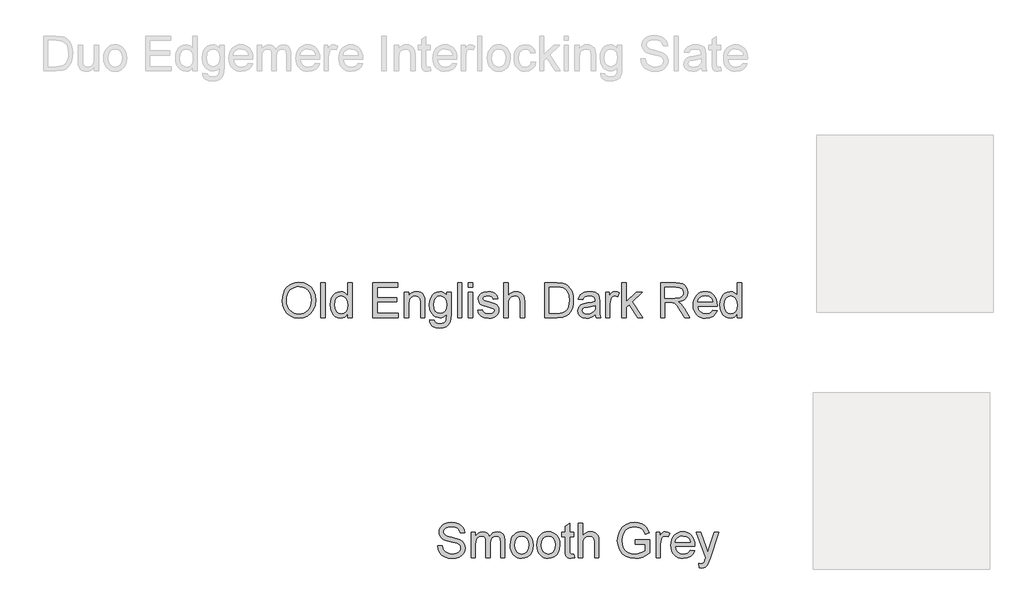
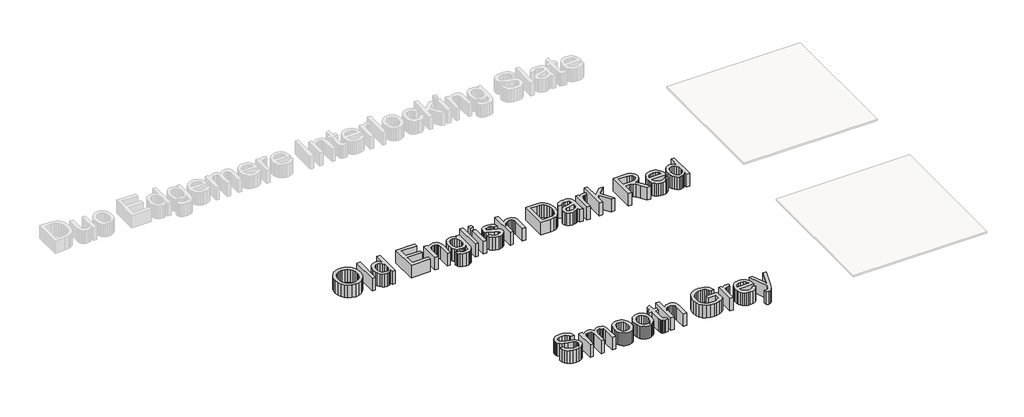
# One storey, part 4 of 8: 2 proxies.
"""IFC4 building model written with IfcOpenShell, lengths in millimetres."""

from ifc_helpers import new_model, si_unit, frame, origin, place, context, project, spatial, polyline, outline, extrude, element, save

model = new_model("IFC4")

# Units and contexts
model_context = context("Model", 3, world=origin())
ifc_project = project(units=[si_unit("LENGTHUNIT", "METRE", prefix="MILLI")], contexts=[model_context])

# Site, building, storey
site = spatial("IfcSite", under=ifc_project)
building = spatial("IfcBuilding", under=site)
storey = spatial("IfcBuildingStorey", under=building, Name="Marley Concrete Interlocking Tiles", Elevation=3000.0)

# Proxies
placement = place(None, origin())
element("IfcBuildingElementProxy", 1, Name="600mm Arial", ObjectType="600mm Arial", at=placement, inside=storey, context=model_context, shape_type="SweptSolid", body=[
    extrude(outline(polyline([(-4942.1952292, 3643.6359657), (-4939.7342917, 3678.2829008), (-4932.3514792, 3708.9544754), (-4920.0467917, 3735.6506893), (-4902.8202292, 3758.3715427), (-4881.7039431, 3776.5130691), (-4857.7300849, 3789.4713023), (-4830.8986547, 3797.2462422), (-4801.2096522, 3799.8378888), (-4762.4656619, 3794.9701004), (-4727.7240753, 3780.366735), (-4698.8779215, 3757.0554369), (-4677.8202292, 3726.0638504), (-4664.947633, 3688.8883696), (-4660.6567676, 3647.0253888), (-4665.1729936, 3604.6035138), (-4678.7216715, 3566.9051965), (-4700.5546042, 3535.8595234), (-4729.9235946, 3513.3955811), (-4764.3677051, 3499.7657734), (-4801.4259984, 3495.2225042), (-4840.7649407, 3500.2435379), (-4875.7048446, 3515.3066388), (-4904.478883, 3539.0506292), (-4925.3202292, 3570.1143311), (-4937.9764792, 3605.8565186), (-4942.1952292, 3643.6359657)]), holes=[polyline([(-4905.2721522, 3643.2753888), (-4903.4264491, 3618.796723), (-4897.8893397, 3597.0674561), (-4888.6608241, 3578.0875883), (-4875.7409022, 3561.8571196), (-4860.0355236, 3548.8583215), (-4842.4506378, 3539.5734657), (-4822.9862448, 3534.0025523), (-4801.6423446, 3532.1455811), (-4779.9333602, 3534.0205811), (-4760.2390994, 3539.6455811), (-4742.5595621, 3549.0205811), (-4726.8947484, 3562.1455811), (-4714.069478, 3578.718598), (-4704.9085705, 3598.4376484), (-4699.412026, 3621.3027326), (-4697.5798446, 3647.3138504), (-4700.7168638, 3680.0001484), (-4710.1279215, 3708.2513504), (-4725.5696282, 3731.3553167), (-4746.7985946, 3748.5999081), (-4772.4085705, 3759.3360859), (-4800.9933061, 3762.9148119), (-4821.59577, 3761.1908035), (-4840.7108542, 3756.0187782), (-4858.3385585, 3747.3987362), (-4874.478883, 3735.3306773), (-4887.9509383, 3719.2331713), (-4897.5738349, 3698.5247879), (-4903.3475729, 3673.205527), (-4905.2721522, 3643.2753888)])]), frame((0.0, 0.0, 3000.0), z_axis=(0.0, 0.0, 1.0), x_axis=(1.0, 0.0, 0.0)), (0.0, 0.0, 1.0), 150.0),
    extrude(outline(polyline([(-4614.5029215, 3499.8378888), (-4614.5029215, 3795.2225042), (-4577.5798446, 3795.2225042), (-4577.5798446, 3499.8378888), (-4614.5029215, 3499.8378888)])), frame((0.0, 0.0, 3000.0), z_axis=(0.0, 0.0, 1.0), x_axis=(1.0, 0.0, 0.0)), (0.0, 0.0, 1.0), 150.0),
    extrude(outline(polyline([(-4388.3490753, 3499.8378888), (-4388.3490753, 3534.6696196), (-4399.3962508, 3517.4115066), (-4412.7781619, 3505.0842831), (-4428.4948085, 3497.6879489), (-4446.5461907, 3495.2225042), (-4470.416383, 3498.7922157), (-4492.2673446, 3509.5013504), (-4510.7649407, 3526.6017109), (-4524.5750369, 3549.3451004), (-4533.1747965, 3576.8120475), (-4536.041383, 3608.0830811), (-4533.4001571, 3638.9664946), (-4525.4764792, 3666.8571196), (-4512.2793638, 3690.1684177), (-4493.8178253, 3707.3138504), (-4471.4890994, 3717.8607254), (-4446.6904215, 3721.3763504), (-4428.6255176, 3718.8613263), (-4412.6519599, 3711.3162542), (-4399.1122965, 3699.7507494), (-4388.3490753, 3685.1744273), (-4388.3490753, 3795.2225042), (-4351.4259984, 3795.2225042), (-4351.4259984, 3499.8378888), (-4388.3490753, 3499.8378888)]), holes=[polyline([(-4499.1183061, 3608.2273119), (-4494.9536426, 3574.8288744), (-4482.4596522, 3551.0758696), (-4464.3046042, 3536.8781532), (-4443.1567676, 3532.1455811), (-4422.0179455, 3536.6618071), (-4404.322633, 3550.210485), (-4392.3424647, 3573.0440186), (-4388.3490753, 3605.4148119), (-4392.4145801, 3640.8054369), (-4404.6110946, 3665.3426965), (-4422.7571282, 3679.6756292), (-4444.6711907, 3684.4532734), (-4466.0353734, 3679.8649321), (-4483.541383, 3666.0999081), (-4495.2240753, 3642.4550763), (-4499.1183061, 3608.2273119)])]), frame((0.0, 0.0, 3000.0), z_axis=(0.0, 0.0, 1.0), x_axis=(1.0, 0.0, 0.0)), (0.0, 0.0, 1.0), 150.0),
    extrude(outline(polyline([(-4176.041383, 3499.8378888), (-4176.041383, 3795.2225042), (-3963.7336907, 3795.2225042), (-3963.7336907, 3758.2994273), (-4139.1183061, 3758.2994273), (-4139.1183061, 3670.6071196), (-3972.9644599, 3670.6071196), (-3972.9644599, 3633.6840427), (-4139.1183061, 3633.6840427), (-4139.1183061, 3536.7609657), (-3959.1183061, 3536.7609657), (-3959.1183061, 3499.8378888), (-4176.041383, 3499.8378888)])), frame((0.0, 0.0, 3000.0), z_axis=(0.0, 0.0, 1.0), x_axis=(1.0, 0.0, 0.0)), (0.0, 0.0, 1.0), 150.0),
    extrude(outline(polyline([(-3908.3490753, 3499.8378888), (-3908.3490753, 3716.7609657), (-3871.4259984, 3716.7609657), (-3871.4259984, 3686.4725042), (-3858.5984744, 3701.7429369), (-3843.1928253, 3712.6503888), (-3825.2090513, 3719.19486), (-3804.6471522, 3721.3763504), (-3786.4470321, 3719.6185379), (-3769.7793638, 3714.3451004), (-3755.8791234, 3706.2140907), (-3745.9812869, 3695.8835619), (-3734.9115753, 3668.7321196), (-3732.9644599, 3633.0350042), (-3732.9644599, 3499.8378888), (-3769.8875369, 3499.8378888), (-3769.8875369, 3628.0590427), (-3774.1423446, 3660.7273119), (-3780.0287628, 3670.4538744), (-3789.1784022, 3677.9989465), (-3800.9061667, 3682.8396917), (-3814.5269599, 3684.4532734), (-3836.1525609, 3680.8294754), (-3854.5870561, 3669.9580811), (-3861.9540934, 3661.0833816), (-3867.2162628, 3648.9544754), (-3871.4259984, 3614.9340427), (-3871.4259984, 3499.8378888), (-3908.3490753, 3499.8378888)])), frame((0.0, 0.0, 3000.0), z_axis=(0.0, 0.0, 1.0), x_axis=(1.0, 0.0, 0.0)), (0.0, 0.0, 1.0), 150.0),
    extrude(outline(polyline([(-3691.4259984, 3481.3763504), (-3654.5029215, 3476.7609657), (-3650.4284022, 3465.2225042), (-3642.5317676, 3457.2898119), (-3627.0089311, 3451.1239465), (-3606.6904215, 3449.0686581), (-3585.0197484, 3451.3943792), (-3568.9019599, 3458.3715427), (-3557.7240753, 3469.5494273), (-3550.8731138, 3484.4773119), (-3548.3490753, 3527.5301965), (-3560.635734, 3515.4148119), (-3574.3466715, 3506.7609657), (-3589.4818878, 3501.5686581), (-3606.041383, 3499.8378888), (-3626.2855236, 3501.8526124), (-3644.1092917, 3507.8967831), (-3659.5126871, 3517.9704008), (-3672.4957099, 3532.0734657), (-3682.7969419, 3548.9935379), (-3690.1549647, 3567.5181773), (-3696.041383, 3609.3811581), (-3693.4001571, 3639.1918552), (-3685.4764792, 3666.6047157), (-3672.5497965, 3689.834884), (-3654.8995561, 3707.0975042), (-3633.1297244, 3717.8066388), (-3607.8442676, 3721.3763504), (-3590.5771402, 3719.3571196), (-3574.9055657, 3713.2994273), (-3560.8295441, 3703.2032734), (-3548.3490753, 3689.0686581), (-3548.3490753, 3716.7609657), (-3511.4259984, 3716.7609657), (-3511.4259984, 3529.4773119), (-3513.9500369, 3486.2351244), (-3521.5221522, 3457.7585619), (-3534.5660224, 3438.8733456), (-3553.5053253, 3424.4051965), (-3577.9253974, 3415.210485), (-3607.4115753, 3412.1455811), (-3641.7655417, 3416.4634898), (-3668.8178253, 3429.4172157), (-3679.006377, 3439.1415246), (-3686.1705897, 3451.0428167), (-3690.3104635, 3465.1210919), (-3691.4259984, 3481.3763504)]), holes=[polyline([(-3659.1183061, 3611.9051965), (-3655.1790032, 3578.038009), (-3643.3610946, 3554.7537542), (-3625.5936667, 3541.2591629), (-3603.8058061, 3536.7609657), (-3582.1802051, 3541.2321196), (-3564.322633, 3554.6455811), (-3552.3424647, 3577.63236), (-3548.3490753, 3610.8234657), (-3552.4596522, 3642.8336821), (-3564.791383, 3665.8835619), (-3582.9103734, 3679.8108456), (-3604.3827292, 3684.4532734), (-3625.4674647, 3679.8829609), (-3643.1447484, 3666.1720234), (-3655.1249167, 3643.4646917), (-3659.1183061, 3611.9051965)])]), frame((0.0, 0.0, 3000.0), z_axis=(0.0, 0.0, 1.0), x_axis=(1.0, 0.0, 0.0)), (0.0, 0.0, 1.0), 150.0),
    extrude(outline(polyline([(-3456.041383, 3499.8378888), (-3456.041383, 3795.2225042), (-3419.1183061, 3795.2225042), (-3419.1183061, 3499.8378888), (-3456.041383, 3499.8378888)])), frame((0.0, 0.0, 3000.0), z_axis=(0.0, 0.0, 1.0), x_axis=(1.0, 0.0, 0.0)), (0.0, 0.0, 1.0), 150.0),
    extrude(outline(polyline([(-3363.7336907, 3499.8378888), (-3363.7336907, 3716.7609657), (-3326.8106138, 3716.7609657), (-3326.8106138, 3499.8378888), (-3363.7336907, 3499.8378888)])), frame((0.0, 0.0, 3000.0), z_axis=(0.0, 0.0, 1.0), x_axis=(1.0, 0.0, 0.0)), (0.0, 0.0, 1.0), 150.0),
    extrude(outline(polyline([(-3363.7336907, 3758.2994273), (-3363.7336907, 3795.2225042), (-3326.8106138, 3795.2225042), (-3326.8106138, 3758.2994273), (-3363.7336907, 3758.2994273)])), frame((0.0, 0.0, 3000.0), z_axis=(0.0, 0.0, 1.0), x_axis=(1.0, 0.0, 0.0)), (0.0, 0.0, 1.0), 150.0),
    extrude(outline(polyline([(-3285.2721522, 3564.4532734), (-3248.3490753, 3569.0686581), (-3242.525758, 3553.2753888), (-3231.2577292, 3541.6648119), (-3214.4728734, 3534.5253888), (-3192.0990753, 3532.1455811), (-3169.9957099, 3534.3270715), (-3154.4548446, 3540.8715427), (-3145.260133, 3550.3547157), (-3142.1952292, 3561.3523119), (-3145.2781619, 3570.7633696), (-3154.5269599, 3577.9388504), (-3192.5317676, 3588.4676965), (-3248.1327292, 3606.5326004), (-3262.2042436, 3615.6101244), (-3272.3995561, 3627.6263504), (-3278.5924647, 3641.8150523), (-3280.6567676, 3657.4100042), (-3278.9981138, 3671.7158936), (-3274.0221522, 3684.9220234), (-3266.1796042, 3696.5055571), (-3255.9211907, 3705.9436581), (-3232.447633, 3716.8691388), (-3200.6808061, 3721.3763504), (-3176.6483542, 3719.5644513), (-3155.7529215, 3714.1287542), (-3138.9500369, 3705.60111), (-3127.1952292, 3694.5133696), (-3119.4067676, 3680.0452206), (-3114.5029215, 3661.3763504), (-3151.4259984, 3656.7609657), (-3156.0864551, 3668.3805571), (-3165.3082099, 3677.1335619), (-3179.1814071, 3682.6233456), (-3197.7961907, 3684.4532734), (-3218.9981138, 3682.7044754), (-3233.1327292, 3677.4580811), (-3241.0834503, 3669.8859657), (-3243.7336907, 3661.1600042), (-3239.3346522, 3650.4148119), (-3225.5606138, 3642.2657734), (-3193.7577292, 3634.4051965), (-3139.5630176, 3617.0253888), (-3125.2481138, 3608.7140907), (-3114.3947484, 3597.3378888), (-3107.5528013, 3582.8607254), (-3105.2721522, 3565.2465427), (-3107.9494359, 3547.0374081), (-3115.9812869, 3529.9100042), (-3129.0612147, 3515.2074802), (-3146.8827292, 3504.272985), (-3168.4091715, 3497.4851244), (-3192.603883, 3495.2225042), (-3229.8334503, 3499.585485), (-3257.0029215, 3512.6744273), (-3275.1399407, 3534.3451004), (-3285.2721522, 3564.4532734)])), frame((0.0, 0.0, 3000.0), z_axis=(0.0, 0.0, 1.0), x_axis=(1.0, 0.0, 0.0)), (0.0, 0.0, 1.0), 150.0),
    extrude(outline(polyline([(-3063.7336907, 3499.8378888), (-3063.7336907, 3795.2225042), (-3026.8106138, 3795.2225042), (-3026.8106138, 3686.616735), (-3013.2484143, 3701.8240667), (-2998.0185465, 3712.6864465), (-2981.1210104, 3719.2038744), (-2962.5558061, 3721.3763504), (-2940.2541234, 3719.0055571), (-2921.0894599, 3711.8931773), (-2905.9993157, 3700.5981052), (-2895.9211907, 3685.679235), (-2890.2421042, 3665.1804369), (-2888.3490753, 3637.1455811), (-2888.3490753, 3499.8378888), (-2925.2721522, 3499.8378888), (-2925.2721522, 3633.3234657), (-2928.2108542, 3656.4364465), (-2937.0269599, 3672.2657734), (-2951.2336907, 3681.4063984), (-2970.3442676, 3684.4532734), (-2985.948234, 3682.397985), (-3000.5966715, 3676.2321196), (-3012.7300849, 3666.5506292), (-3020.7889792, 3653.9484657), (-3025.3052051, 3637.1996677), (-3026.8106138, 3615.0782734), (-3026.8106138, 3499.8378888), (-3063.7336907, 3499.8378888)])), frame((0.0, 0.0, 3000.0), z_axis=(0.0, 0.0, 1.0), x_axis=(1.0, 0.0, 0.0)), (0.0, 0.0, 1.0), 150.0),
    extrude(outline(polyline([(-2717.5798446, 3499.8378888), (-2717.5798446, 3795.2225042), (-2615.6808061, 3795.2225042), (-2562.9644599, 3790.9676965), (-2539.4187869, 3782.7645715), (-2519.5509984, 3769.8378888), (-2499.1243157, 3747.3378888), (-2484.5750369, 3719.3571196), (-2475.8671042, 3686.4364465), (-2472.9644599, 3649.116735), (-2474.9296042, 3617.413009), (-2480.8250369, 3589.5133696), (-2489.8034022, 3565.7603648), (-2501.0173446, 3546.4965427), (-2513.9259984, 3531.2892109), (-2527.9884984, 3519.7056773), (-2544.1333301, 3511.1149321), (-2563.2889792, 3504.8859657), (-2610.7769599, 3499.8378888), (-2717.5798446, 3499.8378888)]), holes=[polyline([(-2680.6567676, 3536.7609657), (-2615.3202292, 3536.7609657), (-2588.2949888, 3538.0951004), (-2567.7961907, 3542.0975042), (-2552.3274407, 3548.5338023), (-2540.3923446, 3557.1696196), (-2527.5648205, 3573.1521917), (-2517.9284022, 3593.8402927), (-2511.8977532, 3619.3240667), (-2509.8875369, 3649.6936581), (-2513.8268397, 3689.9340427), (-2525.6447484, 3719.6455811), (-2543.1056859, 3740.054235), (-2563.9740753, 3752.3859657), (-2585.2120561, 3756.8210619), (-2616.3298446, 3758.2994273), (-2680.6567676, 3758.2994273), (-2680.6567676, 3536.7609657)])]), frame((0.0, 0.0, 3000.0), z_axis=(0.0, 0.0, 1.0), x_axis=(1.0, 0.0, 0.0)), (0.0, 0.0, 1.0), 150.0),
    extrude(outline(polyline([(-2288.3490753, 3527.5301965), (-2305.9903013, 3512.4039946), (-2324.1543638, 3502.5061581), (-2343.2559263, 3497.0434177), (-2363.7096522, 3495.2225042), (-2394.5660224, 3499.6035138), (-2417.3274407, 3512.7465427), (-2431.3628974, 3532.7044754), (-2436.041383, 3557.5301965), (-2434.2745561, 3572.8366869), (-2428.9740753, 3586.7369273), (-2420.7979936, 3598.6359657), (-2410.4043638, 3607.9388504), (-2384.5509984, 3620.054235), (-2352.603883, 3625.6071196), (-2314.8514792, 3631.4484657), (-2288.5654215, 3638.2994273), (-2288.3490753, 3646.5205811), (-2290.8911426, 3662.9989465), (-2298.5173446, 3673.7801965), (-2315.572633, 3681.7850042), (-2339.3346522, 3684.4532734), (-2361.3298446, 3682.6774321), (-2376.6904215, 3677.3499081), (-2387.1651811, 3667.4971436), (-2394.5029215, 3652.1455811), (-2431.4259984, 3656.7609657), (-2425.0167436, 3676.9532734), (-2415.4524407, 3692.8186581), (-2401.8406619, 3704.9520715), (-2383.2889792, 3713.9484657), (-2360.5996763, 3719.5193792), (-2334.5750369, 3721.3763504), (-2309.6140994, 3719.7357254), (-2289.8274407, 3714.8138504), (-2274.9085705, 3707.413009), (-2264.5509984, 3698.335485), (-2257.682008, 3687.1125282), (-2253.228883, 3673.2753888), (-2251.4259984, 3640.9676965), (-2251.4259984, 3595.0301965), (-2249.5509984, 3530.8835619), (-2242.1952292, 3499.8378888), (-2279.1183061, 3499.8378888), (-2288.3490753, 3527.5301965)]), holes=[polyline([(-2288.3490753, 3601.3763504), (-2347.916383, 3590.054235), (-2379.6832099, 3584.0686581), (-2394.0702292, 3574.3330811), (-2399.1183061, 3560.1263504), (-2396.3689071, 3549.1467831), (-2388.1207099, 3540.1503888), (-2374.5540032, 3534.1467831), (-2355.8490753, 3532.1455811), (-2336.0173446, 3534.3541148), (-2318.4933061, 3540.9797157), (-2304.2865753, 3550.7423359), (-2294.4067676, 3562.3619273), (-2290.025758, 3574.3330811), (-2288.5654215, 3590.9196196), (-2288.3490753, 3601.3763504)])]), frame((0.0, 0.0, 3000.0), z_axis=(0.0, 0.0, 1.0), x_axis=(1.0, 0.0, 0.0)), (0.0, 0.0, 1.0), 150.0),
    extrude(outline(polyline([(-2200.6567676, 3499.8378888), (-2200.6567676, 3716.7609657), (-2168.3490753, 3716.7609657), (-2168.3490753, 3684.6696196), (-2156.4139792, 3703.2753888), (-2145.416383, 3714.2369273), (-2134.3827292, 3719.5914946), (-2122.3394599, 3721.3763504), (-2103.9500369, 3718.5277927), (-2085.2721522, 3709.9821196), (-2097.603883, 3676.8811581), (-2110.5846522, 3682.5602446), (-2123.5654215, 3684.4532734), (-2134.5900609, 3682.63236), (-2144.4428253, 3677.1696196), (-2152.4025609, 3668.4797157), (-2157.7481138, 3656.9773119), (-2162.2372965, 3636.3523119), (-2163.7336907, 3613.8523119), (-2163.7336907, 3499.8378888), (-2200.6567676, 3499.8378888)])), frame((0.0, 0.0, 3000.0), z_axis=(0.0, 0.0, 1.0), x_axis=(1.0, 0.0, 0.0)), (0.0, 0.0, 1.0), 150.0),
    extrude(outline(polyline([(-2062.1952292, 3499.8378888), (-2062.1952292, 3795.2225042), (-2025.2721522, 3795.2225042), (-2025.2721522, 3636.4965427), (-1942.4836907, 3716.7609657), (-1891.4259984, 3716.7609657), (-1975.2240753, 3635.4869273), (-1886.8106138, 3499.8378888), (-1929.9356138, 3499.8378888), (-2001.6904215, 3609.8138504), (-2025.2721522, 3586.9532734), (-2025.2721522, 3499.8378888), (-2062.1952292, 3499.8378888)])), frame((0.0, 0.0, 3000.0), z_axis=(0.0, 0.0, 1.0), x_axis=(1.0, 0.0, 0.0)), (0.0, 0.0, 1.0), 150.0),
    extrude(outline(polyline([(-1734.5029215, 3499.8378888), (-1734.5029215, 3795.2225042), (-1607.2192676, 3795.2225042), (-1573.0095321, 3793.2303167), (-1548.1207099, 3787.2537542), (-1529.9296042, 3776.2201004), (-1515.8130176, 3759.0566388), (-1506.7535224, 3737.7735859), (-1503.7336907, 3714.3811581), (-1508.7366955, 3685.2826004), (-1523.7457099, 3661.1600042), (-1535.115151, 3651.3297758), (-1549.2114551, 3643.4737061), (-1585.5846522, 3633.6840427), (-1564.5990753, 3617.8907734), (-1534.6711907, 3579.8859657), (-1485.416383, 3499.8378888), (-1528.3250369, 3499.8378888), (-1566.7625369, 3561.0638504), (-1594.5269599, 3601.5926965), (-1614.0341715, 3620.7393311), (-1631.5942676, 3627.7705811), (-1653.0125369, 3629.0686581), (-1697.5798446, 3629.0686581), (-1697.5798446, 3499.8378888), (-1734.5029215, 3499.8378888)]), holes=[polyline([(-1697.5798446, 3665.991735), (-1614.9356138, 3665.991735), (-1591.2006378, 3667.2988263), (-1572.7841715, 3671.2201004), (-1558.9199888, 3678.0169754), (-1548.8418638, 3687.9508696), (-1542.7030417, 3699.9670956), (-1540.6567676, 3713.0109657), (-1544.5600128, 3731.0217831), (-1556.2697484, 3745.5350042), (-1576.416984, 3755.1083215), (-1605.6327292, 3758.2994273), (-1697.5798446, 3758.2994273), (-1697.5798446, 3665.991735)])]), frame((0.0, 0.0, 3000.0), z_axis=(0.0, 0.0, 1.0), x_axis=(1.0, 0.0, 0.0)), (0.0, 0.0, 1.0), 150.0),
    extrude(outline(polyline([(-1291.8586907, 3564.4532734), (-1255.6567676, 3559.8378888), (-1268.7006378, 3532.5602446), (-1289.5149407, 3512.1696196), (-1317.6309263, 3499.4592831), (-1352.5798446, 3495.2225042), (-1375.4900008, 3497.0501785), (-1395.9031619, 3502.5332013), (-1413.8193277, 3511.6715727), (-1429.2384984, 3524.4652927), (-1441.6378373, 3540.5582915), (-1450.494508, 3559.5944994), (-1455.8085104, 3581.5739165), (-1457.5798446, 3606.4965427), (-1455.7904816, 3632.264271), (-1450.4223926, 3654.97611), (-1441.4755777, 3674.6320595), (-1428.9500369, 3691.2321196), (-1413.5714311, 3704.4202206), (-1396.0654215, 3713.8402927), (-1376.432008, 3719.4923359), (-1354.6711907, 3721.3763504), (-1333.6112448, 3719.4968431), (-1314.5660224, 3713.8583215), (-1297.5355236, 3704.4607855), (-1282.5197484, 3691.304235), (-1270.2623866, 3674.7402326), (-1261.5071282, 3655.1203407), (-1256.2539732, 3632.4445595), (-1254.5029215, 3606.7128888), (-1254.7192676, 3596.7609657), (-1420.6567676, 3596.7609657), (-1414.2655417, 3569.1227446), (-1399.4187869, 3548.804235), (-1377.9915032, 3536.3102446), (-1351.8586907, 3532.1455811), (-1332.2072484, 3534.0746677), (-1315.6567676, 3539.8619273), (-1302.2072484, 3549.8679369), (-1291.8586907, 3564.4532734)]), holes=[polyline([(-1420.6567676, 3633.6840427), (-1291.4259984, 3633.6840427), (-1296.4199888, 3653.1912542), (-1306.2096522, 3667.1455811), (-1327.7360946, 3680.1263504), (-1354.8154215, 3684.4532734), (-1379.7042436, 3681.0007494), (-1400.2841715, 3670.6431773), (-1414.5900609, 3654.4983456), (-1420.6567676, 3633.6840427)])]), frame((0.0, 0.0, 3000.0), z_axis=(0.0, 0.0, 1.0), x_axis=(1.0, 0.0, 0.0)), (0.0, 0.0, 1.0), 150.0),
    extrude(outline(polyline([(-1083.7336907, 3499.8378888), (-1083.7336907, 3534.6696196), (-1094.7808662, 3517.4115066), (-1108.1627772, 3505.0842831), (-1123.8794239, 3497.6879489), (-1141.9308061, 3495.2225042), (-1165.8009984, 3498.7922157), (-1187.6519599, 3509.5013504), (-1206.1495561, 3526.6017109), (-1219.9596522, 3549.3451004), (-1228.5594119, 3576.8120475), (-1231.4259984, 3608.0830811), (-1228.7847724, 3638.9664946), (-1220.8610946, 3666.8571196), (-1207.6639792, 3690.1684177), (-1189.2024407, 3707.3138504), (-1166.8737147, 3717.8607254), (-1142.0750369, 3721.3763504), (-1124.010133, 3718.8613263), (-1108.0365753, 3711.3162542), (-1094.4969119, 3699.7507494), (-1083.7336907, 3685.1744273), (-1083.7336907, 3795.2225042), (-1046.8106138, 3795.2225042), (-1046.8106138, 3499.8378888), (-1083.7336907, 3499.8378888)]), holes=[polyline([(-1194.5029215, 3608.2273119), (-1190.338258, 3574.8288744), (-1177.8442676, 3551.0758696), (-1159.6892196, 3536.8781532), (-1138.541383, 3532.1455811), (-1117.4025609, 3536.6618071), (-1099.7072484, 3550.210485), (-1087.7270801, 3573.0440186), (-1083.7336907, 3605.4148119), (-1087.7991955, 3640.8054369), (-1099.9957099, 3665.3426965), (-1118.1417436, 3679.6756292), (-1140.0558061, 3684.4532734), (-1161.4199888, 3679.8649321), (-1178.9259984, 3666.0999081), (-1190.6086907, 3642.4550763), (-1194.5029215, 3608.2273119)])]), frame((0.0, 0.0, 3000.0), z_axis=(0.0, 0.0, 1.0), x_axis=(1.0, 0.0, 0.0)), (0.0, 0.0, 1.0), 150.0),
])
element("IfcBuildingElementProxy", 2, Name="600mm Arial", ObjectType="600mm Arial", at=placement, inside=storey, context=model_context, shape_type="SweptSolid", body=[
    extrude(outline(polyline([(-3622.8053972, 1564.9268272), (-3585.8823203, 1564.9268272), (-3581.6455415, 1544.4370435), (-3573.9832818, 1527.9676925), (-3562.0301568, 1514.8967791), (-3544.9207818, 1504.6023079), (-3524.0073203, 1497.9226204), (-3500.6419357, 1495.6960579), (-3480.0710222, 1497.381755), (-3462.0602049, 1502.4388464), (-3447.465854, 1510.4436541), (-3437.1443395, 1520.9725002), (-3431.0055174, 1533.0608416), (-3428.9592434, 1545.7441348), (-3430.4916953, 1558.1029089), (-3435.0890511, 1568.7850002), (-3444.4279934, 1577.898582), (-3460.1852049, 1585.5518272), (-3513.9472242, 1599.6503848), (-3549.2386905, 1608.9803127), (-3571.8198203, 1617.8595195), (-3590.200229, 1630.2813945), (-3603.2260703, 1645.335481), (-3610.9874886, 1662.6972598), (-3613.574628, 1682.0422118), (-3610.3745078, 1703.6678127), (-3600.7741472, 1723.8330772), (-3585.0259501, 1740.9244233), (-3563.3823203, 1753.3282695), (-3537.402753, 1760.8733416), (-3508.6467434, 1763.3883656), (-3477.4928972, 1760.7561541), (-3450.2332818, 1752.8595195), (-3427.8414549, 1739.8607214), (-3411.2909742, 1721.9220195), (-3400.8162145, 1700.1612022), (-3396.6515511, 1675.6960579), (-3433.574628, 1675.6960579), (-3440.3534742, 1697.7273079), (-3454.4880895, 1713.6287502), (-3476.5734261, 1723.2561541), (-3507.2044357, 1726.4652887), (-3538.5565992, 1723.2922118), (-3560.0650126, 1713.772981), (-3572.5049165, 1699.7645675), (-3576.6515511, 1683.1239425), (-3573.7128492, 1668.9352406), (-3564.8967434, 1657.522981), (-3544.0553972, 1647.3186541), (-3504.6082818, 1636.897981), (-3439.2717434, 1618.3643272), (-3418.2230655, 1604.9688945), (-3403.5385703, 1588.4364425), (-3394.9117674, 1568.9472598), (-3392.0361665, 1546.6816348), (-3395.3444597, 1523.9202166), (-3405.2693395, 1502.5109618), (-3421.4051568, 1484.085481), (-3443.3462626, 1470.2753848), (-3469.731479, 1461.648582), (-3499.199628, 1458.772981), (-3535.3745078, 1461.8739425), (-3565.1491472, 1471.1768272), (-3588.8660943, 1486.7176925), (-3606.8678972, 1508.5325964), (-3618.4243876, 1535.1071156), (-3622.8053972, 1564.9268272)])), frame((0.0, 0.0, 3000.0), z_axis=(0.0, 0.0, 1.0), x_axis=(1.0, 0.0, 0.0)), (0.0, 0.0, 1.0), 150.0),
    extrude(outline(polyline([(-3341.2669357, 1463.3883656), (-3341.2669357, 1680.3114425), (-3304.3438588, 1680.3114425), (-3304.3438588, 1644.6143272), (-3293.2380895, 1661.0115627), (-3278.9592434, 1673.8571156), (-3261.9940992, 1682.1593993), (-3242.8294357, 1684.9268272), (-3222.2945799, 1682.1053127), (-3205.8342434, 1673.6407695), (-3193.5385703, 1660.0920916), (-3185.4977049, 1642.0181733), (-3172.0391713, 1660.7907094), (-3156.6876088, 1674.1996637), (-3139.4430174, 1682.2450363), (-3120.3053972, 1684.9268272), (-3092.5499886, 1680.4646877), (-3072.0241472, 1667.0782695), (-3059.340854, 1644.4069954), (-3055.1130895, 1612.0902887), (-3055.1130895, 1463.3883656), (-3092.0361665, 1463.3883656), (-3092.0361665, 1596.2249041), (-3095.4616472, 1627.054231), (-3100.2753492, 1635.554832), (-3107.8654934, 1642.2345195), (-3117.6281136, 1646.5614425), (-3128.9592434, 1648.0037502), (-3148.9622482, 1644.3078368), (-3165.2693395, 1633.2200964), (-3176.1136905, 1613.9833175), (-3179.7284742, 1585.8402887), (-3179.7284742, 1463.3883656), (-3216.6515511, 1463.3883656), (-3216.6515511, 1600.335481), (-3218.7879693, 1621.2128848), (-3225.1972242, 1636.1047118), (-3236.4742674, 1645.0289906), (-3253.2140511, 1648.0037502), (-3267.4388107, 1646.0205772), (-3280.5457818, 1640.0710579), (-3291.3630895, 1630.2994233), (-3298.7188588, 1616.8499041), (-3302.9376088, 1598.1900483), (-3304.3438588, 1572.7874041), (-3304.3438588, 1463.3883656), (-3341.2669357, 1463.3883656)])), frame((0.0, 0.0, 3000.0), z_axis=(0.0, 0.0, 1.0), x_axis=(1.0, 0.0, 0.0)), (0.0, 0.0, 1.0), 150.0),
    extrude(outline(polyline([(-3008.9592434, 1571.8499041), (-3006.9625487, 1599.9433536), (-3000.9724645, 1624.1515868), (-2990.988991, 1644.4746036), (-2977.012128, 1660.9124041), (-2962.9406136, 1671.4187142), (-2947.4087626, 1678.9232214), (-2930.4165751, 1683.4259257), (-2911.9640511, 1684.9268272), (-2891.5937085, 1683.0991529), (-2873.1749886, 1677.61613), (-2856.7078912, 1668.4777586), (-2842.1924165, 1655.6840387), (-2830.3452109, 1639.6676625), (-2821.8829213, 1620.8613223), (-2816.8055475, 1599.2650183), (-2815.1130895, 1574.8787502), (-2818.105878, 1537.5770675), (-2827.0842434, 1509.1816348), (-2841.7867674, 1487.9166108), (-2861.9520318, 1472.0061541), (-2885.903354, 1462.0812743), (-2911.9640511, 1458.772981), (-2932.6318696, 1460.5938945), (-2951.2218636, 1466.0566348), (-2967.7340331, 1475.1612022), (-2982.168378, 1487.9075964), (-2993.8893816, 1504.0794714), (-3002.261527, 1523.460481), (-3007.2848143, 1546.0506252), (-3008.9592434, 1571.8499041)]), holes=[polyline([(-2972.0361665, 1571.9220195), (-2967.7633299, 1538.5055531), (-2954.9448203, 1514.6984618), (-2935.6539549, 1500.4466589), (-2911.9640511, 1495.6960579), (-2888.3823203, 1500.4737022), (-2869.1275126, 1514.8066348), (-2856.309003, 1538.929231), (-2852.0361665, 1573.0758656), (-2856.3360463, 1605.5187743), (-2869.2356857, 1629.0013464), (-2888.5175367, 1643.2531493), (-2911.9640511, 1648.0037502), (-2935.6539549, 1643.2711781), (-2954.9448203, 1629.0734618), (-2967.7633299, 1605.320457), (-2972.0361665, 1571.9220195)])]), frame((0.0, 0.0, 3000.0), z_axis=(0.0, 0.0, 1.0), x_axis=(1.0, 0.0, 0.0)), (0.0, 0.0, 1.0), 150.0),
    extrude(outline(polyline([(-2782.8053972, 1571.8499041), (-2780.8087025, 1599.9433536), (-2774.8186184, 1624.1515868), (-2764.8351448, 1644.4746036), (-2750.8582818, 1660.9124041), (-2736.7867674, 1671.4187142), (-2721.2549165, 1678.9232214), (-2704.262729, 1683.4259257), (-2685.8102049, 1684.9268272), (-2665.4398624, 1683.0991529), (-2647.0211424, 1677.61613), (-2630.5540451, 1668.4777586), (-2616.0385703, 1655.6840387), (-2604.1913648, 1639.6676625), (-2595.7290751, 1620.8613223), (-2590.6517013, 1599.2650183), (-2588.9592434, 1574.8787502), (-2591.9520318, 1537.5770675), (-2600.9303972, 1509.1816348), (-2615.6329213, 1487.9166108), (-2635.7981857, 1472.0061541), (-2659.7495078, 1462.0812743), (-2685.8102049, 1458.772981), (-2706.4780234, 1460.5938945), (-2725.0680174, 1466.0566348), (-2741.5801869, 1475.1612022), (-2756.0145318, 1487.9075964), (-2767.7355355, 1504.0794714), (-2776.1076809, 1523.460481), (-2781.1309681, 1546.0506252), (-2782.8053972, 1571.8499041)]), holes=[polyline([(-2745.8823203, 1571.9220195), (-2741.6094838, 1538.5055531), (-2728.7909742, 1514.6984618), (-2709.5001088, 1500.4466589), (-2685.8102049, 1495.6960579), (-2662.2284742, 1500.4737022), (-2642.9736665, 1514.8066348), (-2630.1551568, 1538.929231), (-2625.8823203, 1573.0758656), (-2630.1822001, 1605.5187743), (-2643.0818395, 1629.0013464), (-2662.3636905, 1643.2531493), (-2685.8102049, 1648.0037502), (-2709.5001088, 1643.2711781), (-2728.7909742, 1629.0734618), (-2741.6094838, 1605.320457), (-2745.8823203, 1571.9220195)])]), frame((0.0, 0.0, 3000.0), z_axis=(0.0, 0.0, 1.0), x_axis=(1.0, 0.0, 0.0)), (0.0, 0.0, 1.0), 150.0),
    extrude(outline(polyline([(-2468.9592434, 1494.1816348), (-2464.3438588, 1462.3066348), (-2491.9640511, 1458.772981), (-2509.6864068, 1460.3054329), (-2522.9015511, 1464.9027887), (-2532.2404934, 1471.9881252), (-2538.3342434, 1480.9845195), (-2541.6876088, 1496.4352406), (-2542.8053972, 1522.8835579), (-2542.8053972, 1643.3883656), (-2570.4977049, 1643.3883656), (-2570.4977049, 1680.3114425), (-2542.8053972, 1680.3114425), (-2542.8053972, 1733.0277887), (-2505.8823203, 1754.7345195), (-2505.8823203, 1680.3114425), (-2468.9592434, 1680.3114425), (-2468.9592434, 1643.3883656), (-2505.8823203, 1643.3883656), (-2505.8823203, 1523.9652887), (-2503.9352049, 1504.9268272), (-2497.6251088, 1498.1840387), (-2485.0409742, 1495.6960579), (-2468.9592434, 1494.1816348)])), frame((0.0, 0.0, 3000.0), z_axis=(0.0, 0.0, 1.0), x_axis=(1.0, 0.0, 0.0)), (0.0, 0.0, 1.0), 150.0),
    extrude(outline(polyline([(-2432.0361665, 1463.3883656), (-2432.0361665, 1758.772981), (-2395.1130895, 1758.772981), (-2395.1130895, 1650.1672118), (-2381.55089, 1665.3745435), (-2366.3210222, 1676.2369233), (-2349.4234862, 1682.7543512), (-2330.8582818, 1684.9268272), (-2308.5565992, 1682.5560339), (-2289.3919357, 1675.4436541), (-2274.3017915, 1664.148582), (-2264.2236665, 1649.2297118), (-2258.5445799, 1628.7309137), (-2256.6515511, 1600.6960579), (-2256.6515511, 1463.3883656), (-2293.574628, 1463.3883656), (-2293.574628, 1596.8739425), (-2296.5133299, 1619.9869233), (-2305.3294357, 1635.8162502), (-2319.5361665, 1644.9568752), (-2338.6467434, 1648.0037502), (-2354.2507097, 1645.9484618), (-2368.8991472, 1639.7825964), (-2381.0325607, 1630.101106), (-2389.0914549, 1617.4989425), (-2393.6076809, 1600.7501445), (-2395.1130895, 1578.6287502), (-2395.1130895, 1463.3883656), (-2432.0361665, 1463.3883656)])), frame((0.0, 0.0, 3000.0), z_axis=(0.0, 0.0, 1.0), x_axis=(1.0, 0.0, 0.0)), (0.0, 0.0, 1.0), 150.0),
    extrude(outline(polyline([(-1947.4207818, 1578.772981), (-1947.4207818, 1615.6960579), (-1827.4207818, 1615.6960579), (-1827.4207818, 1505.2874041), (-1856.5824405, 1485.0049522), (-1886.6635703, 1470.4556733), (-1917.5920559, 1461.6936541), (-1949.2957818, 1458.772981), (-1990.7170559, 1463.4154089), (-2028.1539549, 1477.3426925), (-2059.2537145, 1500.0680531), (-2081.6635703, 1531.1047118), (-2095.2122482, 1568.3342791), (-2099.7284742, 1609.6383656), (-2095.230277, 1651.2399281), (-2081.7356857, 1689.9388464), (-2059.8035943, 1722.3997839), (-2029.9928972, 1745.2874041), (-1993.6828011, 1758.8631252), (-1952.2525126, 1763.3883656), (-1921.8378492, 1760.7651685), (-1894.4880895, 1752.8955772), (-1871.4562386, 1740.3475002), (-1853.9953011, 1723.6888464), (-1841.0776328, 1702.117332), (-1831.6755895, 1674.8306733), (-1865.7140511, 1665.2393272), (-1873.3132097, 1684.7014666), (-1882.5529934, 1699.3859618), (-1894.7765511, 1710.4556733), (-1911.3270318, 1719.0734618), (-1931.059604, 1724.617332), (-1952.8294357, 1726.4652887), (-1978.3132097, 1724.4731012), (-2000.1010703, 1718.4965387), (-2018.1118876, 1709.2837983), (-2032.2645318, 1697.5830772), (-2051.2669357, 1669.1335579), (-2059.9207818, 1641.2609618), (-2062.8053972, 1611.1527887), (-2059.3348443, 1575.8432935), (-2048.9231857, 1546.7898079), (-2031.8859261, 1524.1996637), (-2008.5385703, 1508.2801925), (-1981.215854, 1498.8420916), (-1952.2525126, 1495.6960579), (-1926.6785943, 1498.0668512), (-1901.7356857, 1505.179231), (-1880.074027, 1514.9779089), (-1864.3438588, 1525.4075964), (-1864.3438588, 1578.772981), (-1947.4207818, 1578.772981)])), frame((0.0, 0.0, 3000.0), z_axis=(0.0, 0.0, 1.0), x_axis=(1.0, 0.0, 0.0)), (0.0, 0.0, 1.0), 150.0),
    extrude(outline(polyline([(-1772.0361665, 1463.3883656), (-1772.0361665, 1680.3114425), (-1739.7284742, 1680.3114425), (-1739.7284742, 1648.2200964), (-1727.793378, 1666.8258656), (-1716.7957818, 1677.7874041), (-1705.762128, 1683.1419714), (-1693.7188588, 1684.9268272), (-1675.3294357, 1682.0782695), (-1656.6515511, 1673.5325964), (-1668.9832818, 1640.4316348), (-1681.9640511, 1646.1107214), (-1694.9448203, 1648.0037502), (-1705.9694597, 1646.1828368), (-1715.8222242, 1640.7200964), (-1723.7819597, 1632.0301925), (-1729.1275126, 1620.5277887), (-1733.6166953, 1599.9027887), (-1735.1130895, 1577.4027887), (-1735.1130895, 1463.3883656), (-1772.0361665, 1463.3883656)])), frame((0.0, 0.0, 3000.0), z_axis=(0.0, 0.0, 1.0), x_axis=(1.0, 0.0, 0.0)), (0.0, 0.0, 1.0), 150.0),
    extrude(outline(polyline([(-1481.699628, 1528.0037502), (-1445.4977049, 1523.3883656), (-1458.5415751, 1496.1107214), (-1479.355878, 1475.7200964), (-1507.4718636, 1463.0097598), (-1542.4207818, 1458.772981), (-1565.3309381, 1460.6006553), (-1585.7440992, 1466.0836781), (-1603.660265, 1475.2220495), (-1619.0794357, 1488.0157695), (-1631.4787746, 1504.1087683), (-1640.3354453, 1523.1449762), (-1645.6494477, 1545.1243933), (-1647.4207818, 1570.0470195), (-1645.6314189, 1595.8147478), (-1640.2633299, 1618.5265868), (-1631.316515, 1638.1825363), (-1618.7909742, 1654.7825964), (-1603.4123684, 1667.9706973), (-1585.9063588, 1677.3907695), (-1566.2729453, 1683.0428127), (-1544.512128, 1684.9268272), (-1523.4521821, 1683.0473199), (-1504.4069597, 1677.4087983), (-1487.3764609, 1668.0112622), (-1472.3606857, 1654.8547118), (-1460.1033239, 1638.2907094), (-1451.3480655, 1618.6708175), (-1446.0949105, 1595.9950363), (-1444.3438588, 1570.2633656), (-1444.5602049, 1560.3114425), (-1610.4977049, 1560.3114425), (-1604.106479, 1532.6732214), (-1589.2597242, 1512.3547118), (-1567.8324405, 1499.8607214), (-1541.699628, 1495.6960579), (-1522.0481857, 1497.6251445), (-1505.4977049, 1503.4124041), (-1492.0481857, 1513.4184137), (-1481.699628, 1528.0037502)]), holes=[polyline([(-1610.4977049, 1597.2345195), (-1481.2669357, 1597.2345195), (-1486.2609261, 1616.741731), (-1496.0505895, 1630.6960579), (-1517.5770318, 1643.6768272), (-1544.6563588, 1648.0037502), (-1569.5451809, 1644.5512262), (-1590.1251088, 1634.1936541), (-1604.4309982, 1618.0488223), (-1610.4977049, 1597.2345195)])]), frame((0.0, 0.0, 3000.0), z_axis=(0.0, 0.0, 1.0), x_axis=(1.0, 0.0, 0.0)), (0.0, 0.0, 1.0), 150.0),
    extrude(outline(polyline([(-1407.4207818, 1380.3114425), (-1412.0361665, 1415.8643272), (-1393.2861665, 1412.6191348), (-1375.762128, 1416.6936541), (-1365.0169357, 1428.0518272), (-1354.9207818, 1455.2393272), (-1352.0361665, 1464.1816348), (-1430.4977049, 1680.3114425), (-1391.5553972, 1680.3114425), (-1349.9448203, 1559.8787502), (-1335.449628, 1511.7056733), (-1320.9544357, 1554.2537502), (-1278.1900126, 1680.3114425), (-1239.5361665, 1680.3114425), (-1315.0409742, 1458.1960579), (-1334.6563588, 1410.022981), (-1344.6984261, 1394.6443752), (-1356.074628, 1383.9893272), (-1369.2897722, 1377.7693752), (-1384.8486665, 1375.6960579), (-1407.4207818, 1380.3114425)])), frame((0.0, 0.0, 3000.0), z_axis=(0.0, 0.0, 1.0), x_axis=(1.0, 0.0, 0.0)), (0.0, 0.0, 1.0), 150.0),
])

save(model, "model.ifc")
